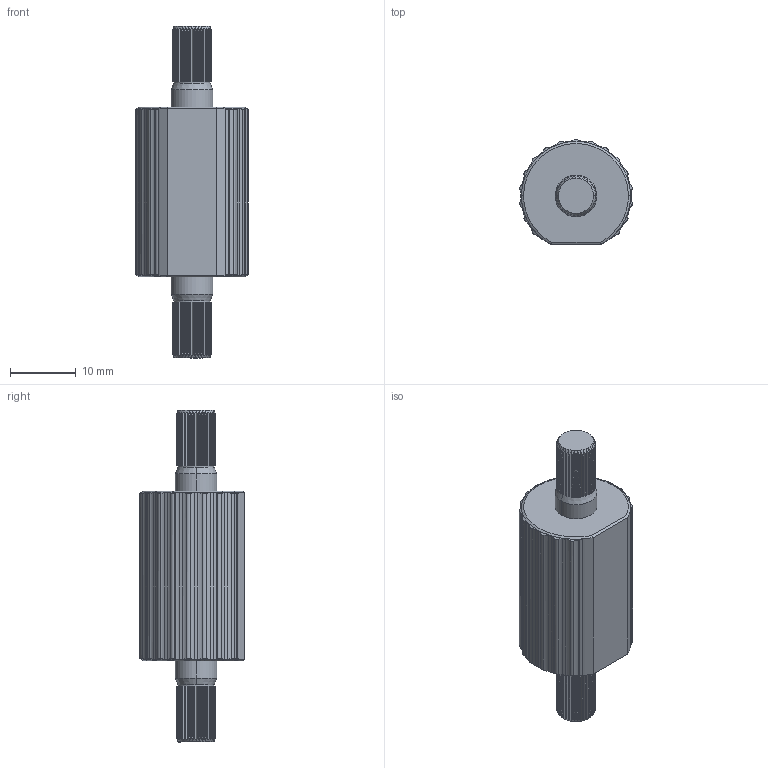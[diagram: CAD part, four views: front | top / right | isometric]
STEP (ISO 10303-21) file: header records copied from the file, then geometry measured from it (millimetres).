
FILE_DESCRIPTION (( 'STEP AP214' ), '1' );
FILE_NAME ('Reell TI-340-X.XX-05.STEP', '2014-10-17T13:48:38', ( 'OSI_Administrator' ), ( '' ), 'SwSTEP 2.0', 'SolidWorks 2014', '' );
FILE_SCHEMA (( 'AUTOMOTIVE_DESIGN' ));
Length unit declared in the file: millimetre
Products named in the file (1): Reell TI-340-X.XX-05
Bounding box: 17.13 x 16.05 x 50.5 mm (x, y, z)
Volume: 6321 mm3; surface area: 2412.3 mm2
Topology: 1 solids, 1 shells, 419 faces, 1063 edges, 648 vertices
Faces by surface type: plane 223, cylinder 164, cone 20, torus 12
Entity records: 12911 total; most frequent: CARTESIAN_POINT 3165, ORIENTED_EDGE 2126, DIRECTION 1927, EDGE_CURVE 1063, AXIS2_PLACEMENT_3D 726, VERTEX_POINT 648, LINE 475, VECTOR 475
